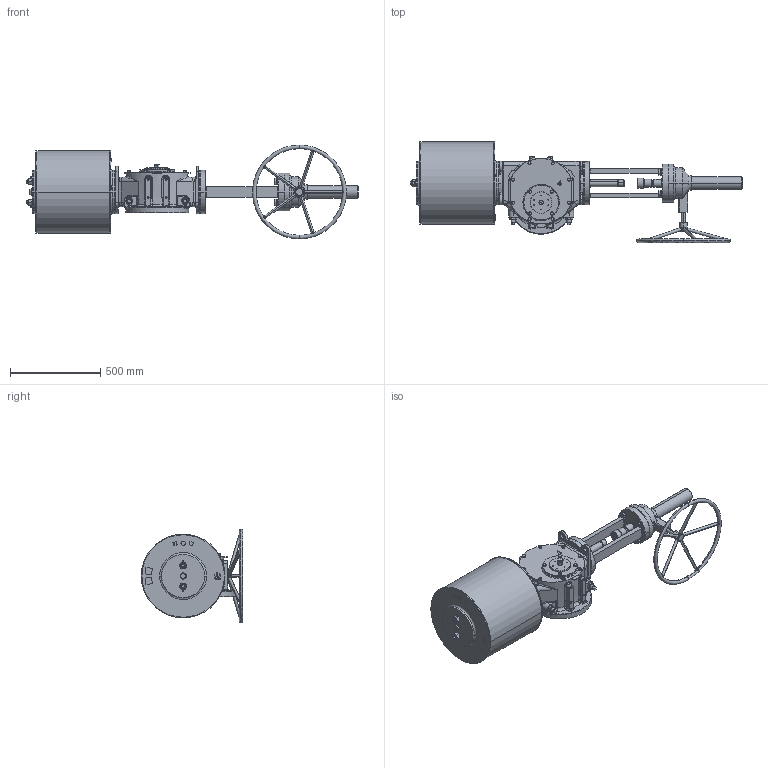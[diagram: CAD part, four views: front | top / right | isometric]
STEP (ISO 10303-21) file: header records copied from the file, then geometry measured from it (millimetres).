
FILE_DESCRIPTION (( 'STEP AP203' ), '1' );
FILE_NAME ('VTS4-450-MGD.STEP', '2022-11-02T01:48:50', ( '' ), ( '' ), 'SwSTEP 2.0', 'SolidWorks 2020', '' );
FILE_SCHEMA (( 'CONFIG_CONTROL_DESIGN' ));
Length unit declared in the file: millimetre
Products named in the file (1): VTS4-450-MGD
Bounding box: 1841.5 x 562 x 520 mm (x, y, z)
Volume: 107709111.4 mm3; surface area: 2763748.7 mm2
Topology: 3 solids, 20 shells, 2245 faces, 5650 edges, 3508 vertices
Faces by surface type: plane 991, cylinder 731, cone 363, bspline 120, torus 40
Entity records: 84452 total; most frequent: CARTESIAN_POINT 31195, DIRECTION 11214, ORIENTED_EDGE 11084, EDGE_CURVE 5542, AXIS2_PLACEMENT_3D 4327, VERTEX_POINT 3508, LINE 2560, VECTOR 2560
